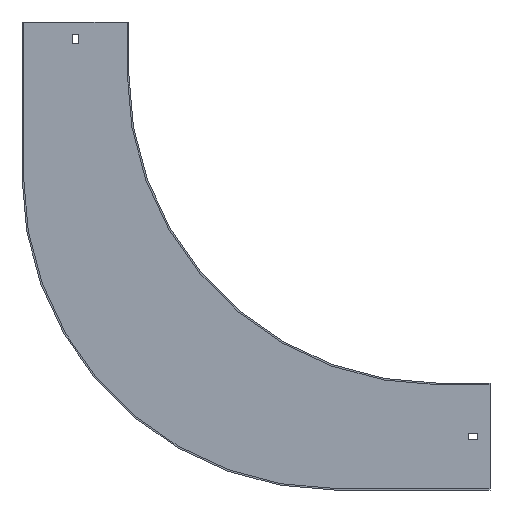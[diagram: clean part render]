
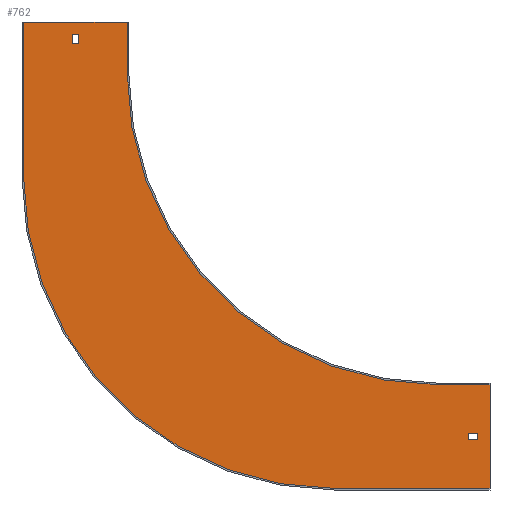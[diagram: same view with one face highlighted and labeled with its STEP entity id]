
A CAD part, front view. The second image highlights one B-rep face of the part: STEP entity #762.
In plain terms, the highlighted planar face has unit normal (0, -1, 0).
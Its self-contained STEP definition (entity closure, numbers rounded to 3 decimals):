
#5 = FACE_BOUND ( 'NONE', #257, .T. ) ;
#6 = ORIENTED_EDGE ( 'NONE', *, *, #691, .F. ) ;
#9 = LINE ( 'NONE', #395, #708 ) ;
#30 = ORIENTED_EDGE ( 'NONE', *, *, #169, .F. ) ;
#34 = DIRECTION ( 'NONE',  ( 1., 0., 0. ) ) ;
#35 = CARTESIAN_POINT ( 'NONE',  ( 50., -1.5, -300. ) ) ;
#37 = VECTOR ( 'NONE', #838, 1000. ) ;
#38 = LINE ( 'NONE', #160, #216 ) ;
#40 = AXIS2_PLACEMENT_3D ( 'NONE', #336, #807, #575 ) ;
#51 = EDGE_CURVE ( 'NONE', #86, #528, #488, .T. ) ;
#53 = EDGE_CURVE ( 'NONE', #393, #339, #730, .T. ) ;
#66 = ORIENTED_EDGE ( 'NONE', *, *, #130, .T. ) ;
#86 = VERTEX_POINT ( 'NONE', #717 ) ;
#95 = VECTOR ( 'NONE', #835, 1000. ) ;
#111 = VECTOR ( 'NONE', #34, 1000. ) ;
#113 = CARTESIAN_POINT ( 'NONE',  ( -353.25, -1.5, 38. ) ) ;
#120 = CARTESIAN_POINT ( 'NONE',  ( -353.25, -1.5, 29. ) ) ;
#126 = LINE ( 'NONE', #537, #228 ) ;
#128 = CARTESIAN_POINT ( 'NONE',  ( -300., -1.5, 50. ) ) ;
#130 = EDGE_CURVE ( 'NONE', #441, #836, #511, .T. ) ;
#137 = DIRECTION ( 'NONE',  ( 0., 0., 1. ) ) ;
#144 = VERTEX_POINT ( 'NONE', #113 ) ;
#160 = CARTESIAN_POINT ( 'NONE',  ( -401.5, -1.5, 50. ) ) ;
#169 = EDGE_CURVE ( 'NONE', #553, #464, #9, .T. ) ;
#180 = EDGE_LOOP ( 'NONE', ( #6, #649, #383, #726, #240, #771, #507, #30 ) ) ;
#182 = CARTESIAN_POINT ( 'NONE',  ( 29., -1.5, -353.25 ) ) ;
#187 = DIRECTION ( 'NONE',  ( 0., 0., -1. ) ) ;
#192 = VERTEX_POINT ( 'NONE', #847 ) ;
#200 = CIRCLE ( 'NONE', #40, 300. ) ;
#201 = LINE ( 'NONE', #315, #502 ) ;
#208 = LINE ( 'NONE', #392, #633 ) ;
#216 = VECTOR ( 'NONE', #355, 1000. ) ;
#219 = LINE ( 'NONE', #679, #821 ) ;
#221 = FACE_BOUND ( 'NONE', #354, .T. ) ;
#228 = VECTOR ( 'NONE', #805, 1000. ) ;
#231 = CARTESIAN_POINT ( 'NONE',  ( 38., -1.5, 0. ) ) ;
#235 = CARTESIAN_POINT ( 'NONE',  ( 0., -1.5, -300. ) ) ;
#240 = ORIENTED_EDGE ( 'NONE', *, *, #468, .F. ) ;
#255 = CARTESIAN_POINT ( 'NONE',  ( -346.75, -1.5, 29. ) ) ;
#256 = CARTESIAN_POINT ( 'NONE',  ( 0., -1.5, -300. ) ) ;
#257 = EDGE_LOOP ( 'NONE', ( #481, #770, #66, #322 ) ) ;
#261 = CARTESIAN_POINT ( 'NONE',  ( -346.75, -1.5, 0. ) ) ;
#274 = DIRECTION ( 'NONE',  ( -1., 0., 0. ) ) ;
#280 = AXIS2_PLACEMENT_3D ( 'NONE', #425, #474, #324 ) ;
#283 = VECTOR ( 'NONE', #539, 1000. ) ;
#297 = VERTEX_POINT ( 'NONE', #359 ) ;
#304 = ORIENTED_EDGE ( 'NONE', *, *, #658, .F. ) ;
#315 = CARTESIAN_POINT ( 'NONE',  ( -400., -1.5, -100. ) ) ;
#322 = ORIENTED_EDGE ( 'NONE', *, *, #384, .T. ) ;
#324 = DIRECTION ( 'NONE',  ( 0., 0., -1. ) ) ;
#336 = CARTESIAN_POINT ( 'NONE',  ( 0., -1.5, 0. ) ) ;
#337 = DIRECTION ( 'NONE',  ( 0., 0., -1. ) ) ;
#339 = VERTEX_POINT ( 'NONE', #182 ) ;
#344 = ORIENTED_EDGE ( 'NONE', *, *, #732, .F. ) ;
#350 = VERTEX_POINT ( 'NONE', #35 ) ;
#354 = EDGE_LOOP ( 'NONE', ( #344, #304, #514, #519 ) ) ;
#355 = DIRECTION ( 'NONE',  ( 1., 0., 0. ) ) ;
#359 = CARTESIAN_POINT ( 'NONE',  ( -346.75, -1.5, 38. ) ) ;
#369 = CARTESIAN_POINT ( 'NONE',  ( -353.25, -1.5, 0. ) ) ;
#375 = CARTESIAN_POINT ( 'NONE',  ( 0., -1.5, 38. ) ) ;
#383 = ORIENTED_EDGE ( 'NONE', *, *, #51, .F. ) ;
#384 = EDGE_CURVE ( 'NONE', #836, #144, #833, .T. ) ;
#390 = CARTESIAN_POINT ( 'NONE',  ( 29., -1.5, 0. ) ) ;
#392 = CARTESIAN_POINT ( 'NONE',  ( 0., -1.5, -346.75 ) ) ;
#393 = VERTEX_POINT ( 'NONE', #632 ) ;
#395 = CARTESIAN_POINT ( 'NONE',  ( -300., -1.5, 50. ) ) ;
#416 = LINE ( 'NONE', #235, #754 ) ;
#421 = LINE ( 'NONE', #231, #95 ) ;
#425 = CARTESIAN_POINT ( 'NONE',  ( -100., -1.5, -100. ) ) ;
#426 = DIRECTION ( 'NONE',  ( 1., 0., 0. ) ) ;
#436 = EDGE_CURVE ( 'NONE', #528, #192, #201, .T. ) ;
#441 = VERTEX_POINT ( 'NONE', #255 ) ;
#444 = DIRECTION ( 'NONE',  ( 0., 0., 1. ) ) ;
#445 = VECTOR ( 'NONE', #444, 1000. ) ;
#464 = VERTEX_POINT ( 'NONE', #476 ) ;
#465 = CARTESIAN_POINT ( 'NONE',  ( 38., -1.5, -346.75 ) ) ;
#468 = EDGE_CURVE ( 'NONE', #350, #841, #219, .T. ) ;
#474 = DIRECTION ( 'NONE',  ( 0., 1., 0. ) ) ;
#476 = CARTESIAN_POINT ( 'NONE',  ( -300., -1.5, 0. ) ) ;
#477 = DIRECTION ( 'NONE',  ( 0., 0., -1. ) ) ;
#481 = ORIENTED_EDGE ( 'NONE', *, *, #797, .T. ) ;
#488 = CIRCLE ( 'NONE', #280, 300. ) ;
#502 = VECTOR ( 'NONE', #137, 1000. ) ;
#507 = ORIENTED_EDGE ( 'NONE', *, *, #651, .F. ) ;
#511 = LINE ( 'NONE', #654, #37 ) ;
#514 = ORIENTED_EDGE ( 'NONE', *, *, #742, .F. ) ;
#519 = ORIENTED_EDGE ( 'NONE', *, *, #53, .F. ) ;
#523 = DIRECTION ( 'NONE',  ( 0., 0., -1. ) ) ;
#527 = CARTESIAN_POINT ( 'NONE',  ( 0., -1.5, -353.25 ) ) ;
#528 = VERTEX_POINT ( 'NONE', #561 ) ;
#537 = CARTESIAN_POINT ( 'NONE',  ( 50., -1.5, -400. ) ) ;
#538 = EDGE_CURVE ( 'NONE', #297, #441, #856, .T. ) ;
#539 = DIRECTION ( 'NONE',  ( 1., 0., 0. ) ) ;
#544 = CARTESIAN_POINT ( 'NONE',  ( 0., -1.5, 0. ) ) ;
#550 = DIRECTION ( 'NONE',  ( 0., -1., 0. ) ) ;
#553 = VERTEX_POINT ( 'NONE', #128 ) ;
#561 = CARTESIAN_POINT ( 'NONE',  ( -400., -1.5, -100. ) ) ;
#575 = DIRECTION ( 'NONE',  ( 0., 0., -1. ) ) ;
#588 = VECTOR ( 'NONE', #523, 1000. ) ;
#589 = AXIS2_PLACEMENT_3D ( 'NONE', #544, #550, #477 ) ;
#632 = CARTESIAN_POINT ( 'NONE',  ( 29., -1.5, -346.75 ) ) ;
#633 = VECTOR ( 'NONE', #274, 1000. ) ;
#645 = CARTESIAN_POINT ( 'NONE',  ( 38., -1.5, -353.25 ) ) ;
#649 = ORIENTED_EDGE ( 'NONE', *, *, #436, .F. ) ;
#651 = EDGE_CURVE ( 'NONE', #464, #693, #200, .T. ) ;
#654 = CARTESIAN_POINT ( 'NONE',  ( 0., -1.5, 29. ) ) ;
#658 = EDGE_CURVE ( 'NONE', #806, #859, #421, .T. ) ;
#671 = EDGE_CURVE ( 'NONE', #693, #350, #416, .T. ) ;
#679 = CARTESIAN_POINT ( 'NONE',  ( 50., -1.5, -298.5 ) ) ;
#682 = LINE ( 'NONE', #527, #283 ) ;
#691 = EDGE_CURVE ( 'NONE', #192, #553, #38, .T. ) ;
#693 = VERTEX_POINT ( 'NONE', #256 ) ;
#708 = VECTOR ( 'NONE', #337, 1000. ) ;
#717 = CARTESIAN_POINT ( 'NONE',  ( -100., -1.5, -400. ) ) ;
#726 = ORIENTED_EDGE ( 'NONE', *, *, #858, .F. ) ;
#730 = LINE ( 'NONE', #390, #780 ) ;
#732 = EDGE_CURVE ( 'NONE', #859, #393, #208, .T. ) ;
#742 = EDGE_CURVE ( 'NONE', #339, #806, #682, .T. ) ;
#746 = PLANE ( 'NONE',  #589 ) ;
#754 = VECTOR ( 'NONE', #426, 1000. ) ;
#755 = DIRECTION ( 'NONE',  ( 0., 0., -1. ) ) ;
#762 = ADVANCED_FACE ( 'NONE', ( #221, #813, #5 ), #746, .T. ) ;
#770 = ORIENTED_EDGE ( 'NONE', *, *, #538, .T. ) ;
#771 = ORIENTED_EDGE ( 'NONE', *, *, #671, .F. ) ;
#778 = LINE ( 'NONE', #375, #111 ) ;
#780 = VECTOR ( 'NONE', #187, 1000. ) ;
#797 = EDGE_CURVE ( 'NONE', #144, #297, #778, .T. ) ;
#805 = DIRECTION ( 'NONE',  ( -1., 0., 0. ) ) ;
#806 = VERTEX_POINT ( 'NONE', #645 ) ;
#807 = DIRECTION ( 'NONE',  ( 0., -1., 0. ) ) ;
#813 = FACE_OUTER_BOUND ( 'NONE', #180, .T. ) ;
#821 = VECTOR ( 'NONE', #755, 1000. ) ;
#833 = LINE ( 'NONE', #369, #445 ) ;
#835 = DIRECTION ( 'NONE',  ( 0., 0., 1. ) ) ;
#836 = VERTEX_POINT ( 'NONE', #120 ) ;
#838 = DIRECTION ( 'NONE',  ( -1., 0., 0. ) ) ;
#841 = VERTEX_POINT ( 'NONE', #862 ) ;
#847 = CARTESIAN_POINT ( 'NONE',  ( -400., -1.5, 50. ) ) ;
#856 = LINE ( 'NONE', #261, #588 ) ;
#858 = EDGE_CURVE ( 'NONE', #841, #86, #126, .T. ) ;
#859 = VERTEX_POINT ( 'NONE', #465 ) ;
#862 = CARTESIAN_POINT ( 'NONE',  ( 50., -1.5, -400. ) ) ;
